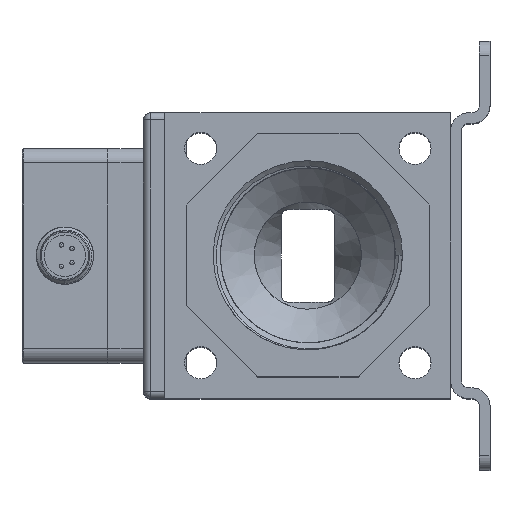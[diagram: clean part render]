
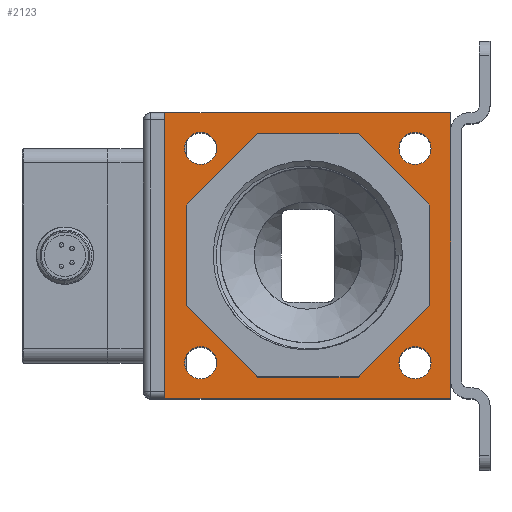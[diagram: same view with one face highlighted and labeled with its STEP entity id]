
A CAD part, top view. The second image highlights one B-rep face of the part: STEP entity #2123.
In plain terms, the highlighted planar face has unit normal (0, 0, 1).
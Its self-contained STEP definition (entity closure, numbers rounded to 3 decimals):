
#808=FACE_BOUND('',#4991,.T.);
#809=FACE_BOUND('',#4992,.T.);
#810=FACE_BOUND('',#4993,.T.);
#811=FACE_BOUND('',#4994,.T.);
#812=FACE_BOUND('',#4995,.T.);
#813=FACE_BOUND('',#4996,.T.);
#2123=ADVANCED_FACE('',(#808,#809,#810,#811,#812,#813),#2928,.F.);
#2928=PLANE('',#21240);
#4991=EDGE_LOOP('',(#9546,#9547,#9548,#9549,#9550,#9551,#9552,#9553));
#4992=EDGE_LOOP('',(#9554,#9555,#9556,#9557));
#4993=EDGE_LOOP('',(#9558));
#4994=EDGE_LOOP('',(#9559));
#4995=EDGE_LOOP('',(#9560));
#4996=EDGE_LOOP('',(#9561));
#5771=CIRCLE('',#21228,2.25);
#5773=CIRCLE('',#21231,2.25);
#5775=CIRCLE('',#21234,2.25);
#5777=CIRCLE('',#21237,2.25);
#9546=ORIENTED_EDGE('',*,*,#15169,.F.);
#9547=ORIENTED_EDGE('',*,*,#15172,.F.);
#9548=ORIENTED_EDGE('',*,*,#15174,.F.);
#9549=ORIENTED_EDGE('',*,*,#15176,.F.);
#9550=ORIENTED_EDGE('',*,*,#15178,.F.);
#9551=ORIENTED_EDGE('',*,*,#15180,.F.);
#9552=ORIENTED_EDGE('',*,*,#15182,.F.);
#9553=ORIENTED_EDGE('',*,*,#15184,.F.);
#9554=ORIENTED_EDGE('',*,*,#15195,.F.);
#9555=ORIENTED_EDGE('',*,*,#15192,.F.);
#9556=ORIENTED_EDGE('',*,*,#15189,.F.);
#9557=ORIENTED_EDGE('',*,*,#15186,.F.);
#9558=ORIENTED_EDGE('',*,*,#15201,.F.);
#9559=ORIENTED_EDGE('',*,*,#15199,.F.);
#9560=ORIENTED_EDGE('',*,*,#15197,.F.);
#9561=ORIENTED_EDGE('',*,*,#15203,.F.);
#12694=VERTEX_POINT('',#33269);
#12695=VERTEX_POINT('',#33270);
#12696=VERTEX_POINT('',#33275);
#12697=VERTEX_POINT('',#33279);
#12698=VERTEX_POINT('',#33283);
#12699=VERTEX_POINT('',#33287);
#12700=VERTEX_POINT('',#33291);
#12701=VERTEX_POINT('',#33295);
#12703=VERTEX_POINT('',#33302);
#12704=VERTEX_POINT('',#33304);
#12706=VERTEX_POINT('',#33310);
#12708=VERTEX_POINT('',#33316);
#12710=VERTEX_POINT('',#33325);
#12712=VERTEX_POINT('',#33330);
#12714=VERTEX_POINT('',#33335);
#12716=VERTEX_POINT('',#33340);
#15169=EDGE_CURVE('',#12694,#12695,#17421,.T.);
#15172=EDGE_CURVE('',#12696,#12694,#17424,.T.);
#15174=EDGE_CURVE('',#12697,#12696,#17426,.T.);
#15176=EDGE_CURVE('',#12698,#12697,#17428,.T.);
#15178=EDGE_CURVE('',#12699,#12698,#17430,.T.);
#15180=EDGE_CURVE('',#12700,#12699,#17432,.T.);
#15182=EDGE_CURVE('',#12701,#12700,#17434,.T.);
#15184=EDGE_CURVE('',#12695,#12701,#17436,.T.);
#15186=EDGE_CURVE('',#12703,#12704,#17438,.T.);
#15189=EDGE_CURVE('',#12704,#12706,#17441,.T.);
#15192=EDGE_CURVE('',#12706,#12708,#17444,.T.);
#15195=EDGE_CURVE('',#12708,#12703,#17447,.T.);
#15197=EDGE_CURVE('',#12710,#12710,#5771,.T.);
#15199=EDGE_CURVE('',#12712,#12712,#5773,.T.);
#15201=EDGE_CURVE('',#12714,#12714,#5775,.T.);
#15203=EDGE_CURVE('',#12716,#12716,#5777,.T.);
#17421=LINE('',#33268,#19511);
#17424=LINE('',#33274,#19514);
#17426=LINE('',#33278,#19516);
#17428=LINE('',#33282,#19518);
#17430=LINE('',#33286,#19520);
#17432=LINE('',#33290,#19522);
#17434=LINE('',#33294,#19524);
#17436=LINE('',#33298,#19526);
#17438=LINE('',#33303,#19528);
#17441=LINE('',#33309,#19531);
#17444=LINE('',#33315,#19534);
#17447=LINE('',#33321,#19537);
#19511=VECTOR('',#24982,1.);
#19514=VECTOR('',#24987,1.);
#19516=VECTOR('',#24991,1.);
#19518=VECTOR('',#24995,1.);
#19520=VECTOR('',#24999,1.);
#19522=VECTOR('',#25003,1.);
#19524=VECTOR('',#25007,1.);
#19526=VECTOR('',#25011,1.);
#19528=VECTOR('',#25015,1.);
#19531=VECTOR('',#25020,1.);
#19534=VECTOR('',#25025,1.);
#19537=VECTOR('',#25030,1.);
#21228=AXIS2_PLACEMENT_3D('',#33324,#25034,#25035);
#21231=AXIS2_PLACEMENT_3D('',#33329,#25040,#25041);
#21234=AXIS2_PLACEMENT_3D('',#33334,#25046,#25047);
#21237=AXIS2_PLACEMENT_3D('',#33339,#25052,#25053);
#21240=AXIS2_PLACEMENT_3D('',#33344,#25058,#25059);
#24982=DIRECTION('',(0.,-1.,0.));
#24987=DIRECTION('',(-0.707,-0.707,0.));
#24991=DIRECTION('',(-1.,0.,0.));
#24995=DIRECTION('',(-0.707,0.707,0.));
#24999=DIRECTION('',(0.,1.,0.));
#25003=DIRECTION('',(0.707,0.707,0.));
#25007=DIRECTION('',(1.,0.,0.));
#25011=DIRECTION('',(0.707,-0.707,0.));
#25015=DIRECTION('',(0.,1.,0.));
#25020=DIRECTION('',(1.,0.,0.));
#25025=DIRECTION('',(0.,-1.,0.));
#25030=DIRECTION('',(-1.,0.,0.));
#25034=DIRECTION('',(0.,0.,1.));
#25035=DIRECTION('',(1.,0.,0.));
#25040=DIRECTION('',(0.,0.,1.));
#25041=DIRECTION('',(1.,0.,0.));
#25046=DIRECTION('',(0.,0.,1.));
#25047=DIRECTION('',(1.,0.,0.));
#25052=DIRECTION('',(0.,0.,1.));
#25053=DIRECTION('',(1.,0.,0.));
#25058=DIRECTION('',(0.,0.,-1.));
#25059=DIRECTION('',(1.,0.,0.));
#33268=CARTESIAN_POINT('',(5.,22.,-1.));
#33269=CARTESIAN_POINT('',(5.,29.042,-1.));
#33270=CARTESIAN_POINT('',(5.,14.958,-1.));
#33274=CARTESIAN_POINT('',(9.979,34.021,-1.));
#33275=CARTESIAN_POINT('',(14.958,39.,-1.));
#33278=CARTESIAN_POINT('',(22.,39.,-1.));
#33279=CARTESIAN_POINT('',(29.042,39.,-1.));
#33282=CARTESIAN_POINT('',(34.021,34.021,-1.));
#33283=CARTESIAN_POINT('',(39.,29.042,-1.));
#33286=CARTESIAN_POINT('',(39.,22.,-1.));
#33287=CARTESIAN_POINT('',(39.,14.958,-1.));
#33290=CARTESIAN_POINT('',(34.021,9.979,-1.));
#33291=CARTESIAN_POINT('',(29.042,5.,-1.));
#33294=CARTESIAN_POINT('',(22.,5.,-1.));
#33295=CARTESIAN_POINT('',(14.958,5.,-1.));
#33298=CARTESIAN_POINT('',(9.979,9.979,-1.));
#33302=CARTESIAN_POINT('',(2.,2.,-1.));
#33303=CARTESIAN_POINT('',(2.,42.,-1.));
#33304=CARTESIAN_POINT('',(2.,42.,-1.));
#33309=CARTESIAN_POINT('',(44.5,42.,-1.));
#33310=CARTESIAN_POINT('',(42.,42.,-1.));
#33315=CARTESIAN_POINT('',(42.,-0.5,-1.));
#33316=CARTESIAN_POINT('',(42.,2.,-1.));
#33321=CARTESIAN_POINT('',(-0.5,2.,-1.));
#33324=CARTESIAN_POINT('',(7.,37.,-1.));
#33325=CARTESIAN_POINT('',(9.25,37.,-1.));
#33329=CARTESIAN_POINT('',(37.,7.,-1.));
#33330=CARTESIAN_POINT('',(39.25,7.,-1.));
#33334=CARTESIAN_POINT('',(37.,37.,-1.));
#33335=CARTESIAN_POINT('',(39.25,37.,-1.));
#33339=CARTESIAN_POINT('',(7.,7.,-1.));
#33340=CARTESIAN_POINT('',(9.25,7.,-1.));
#33344=CARTESIAN_POINT('',(22.,22.,-1.));
